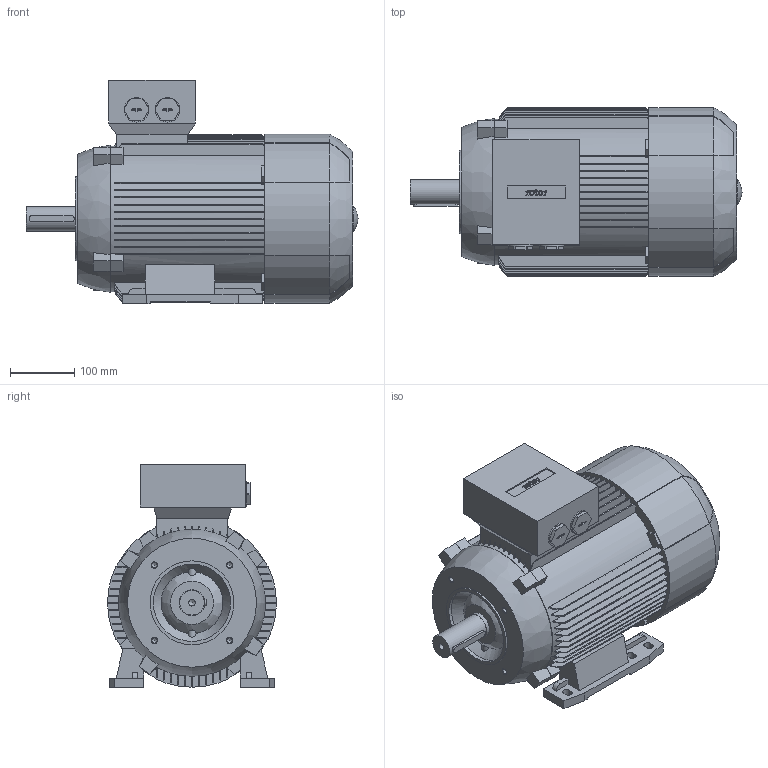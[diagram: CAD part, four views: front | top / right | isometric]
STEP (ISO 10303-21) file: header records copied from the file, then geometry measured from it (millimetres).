
FILE_DESCRIPTION (( 'STEP AP214' ), '1' );
FILE_NAME ('6RN132M06E33 IM2141-A_Rev.1A.STEP', '2018-01-11T14:51:11', ( 'rbc_ict' ), ( '' ), 'SwSTEP 2.0', 'SolidWorks 2015', '' );
FILE_SCHEMA (( 'AUTOMOTIVE_DESIGN' ));
Length unit declared in the file: millimetre
Products named in the file (1): 6RN132M06E33 IM2141-A_Rev.1A
Bounding box: 515 x 262 x 347 mm (x, y, z)
Volume: 21409519.8 mm3; surface area: 879077.7 mm2
Topology: 1 solids, 1 shells, 635 faces, 1808 edges, 1200 vertices
Faces by surface type: plane 375, bspline 144, cylinder 102, cone 14
Full cylindrical faces by diameter (mm): 8.37 x4, 8.38 x4, 10.2 x1, 38 x3, 39 x1, 40 x1, 120 x1, 130 x1
Entity records: 25027 total; most frequent: CARTESIAN_POINT 9639, ORIENTED_EDGE 3514, DIRECTION 2692, EDGE_CURVE 1757, VERTEX_POINT 1179, VECTOR 1032, LINE 1032, AXIS2_PLACEMENT_3D 830
